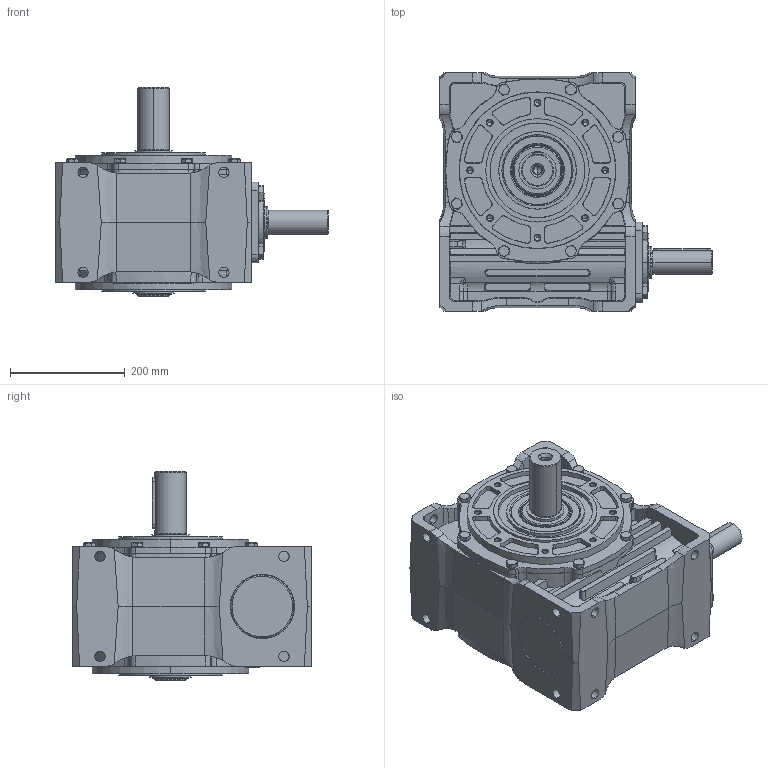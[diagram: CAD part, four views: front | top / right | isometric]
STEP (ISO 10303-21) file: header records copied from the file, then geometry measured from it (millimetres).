
FILE_DESCRIPTION (( 'STEP AP203' ), '1' );
FILE_NAME ('MR-160_WBS-WJ_2-3D.STEP', '2020-03-23T06:30:06', ( '' ), ( '' ), 'SwSTEP 2.0', 'SolidWorks 2013', '' );
FILE_SCHEMA (( 'CONFIG_CONTROL_DESIGN' ));
Length unit declared in the file: millimetre
Products named in the file (12): Pokrywa 166_do nowej wersji; Simmering 55x90x10 RST; MR-160 - do modeli; parallel_din_Parallel key A12 x 8 x 100 DIN 6885; Zaœlepka 110; hex screw gradeab_iso_ISO 4017 - M16 x 30-N; Œlimak R-160_WBS; MR-160_WBS-WJ_2-3D; parallel_din_Parallel key A16 x 10 x 90 DIN 6885; Waｳ R-160; Podk³adka na wa³ek R-160; circlip for shafts normal_din_Circlip DIN 471 - 55 x 2
Assembly tree (14 placements, depth 2):
  MR-160_WBS-WJ_2-3D
    MR-160 - do modeli
    Zaœlepka 110
    Œlimak R-160_WBS
    parallel_din_Parallel key A16 x 10 x 90 DIN 6885
    Waｳ R-160
    Podk³adka na wa³ek R-160
    circlip for shafts normal_din_Circlip DIN 471 - 55 x 2
    Pokrywa 166_do nowej wersji
    Simmering 55x90x10 RST
    parallel_din_Parallel key A12 x 8 x 100 DIN 6885
    hex screw gradeab_iso_ISO 4017 - M16 x 30-N  x4
Bounding box: 474 x 415 x 364 mm (x, y, z)
Volume: 14067897 mm3; surface area: 1970409.7 mm2
Topology: 26 solids, 26 shells, 2677 faces, 6494 edges, 3927 vertices
Faces by surface type: plane 771, cone 675, cylinder 559, bspline 483, torus 110, sphere 79
Entity records: 99708 total; most frequent: CARTESIAN_POINT 41644, ORIENTED_EDGE 12484, DIRECTION 11159, EDGE_CURVE 6242, AXIS2_PLACEMENT_3D 4440, VERTEX_POINT 3825, EDGE_LOOP 2789, ADVANCED_FACE 2590
